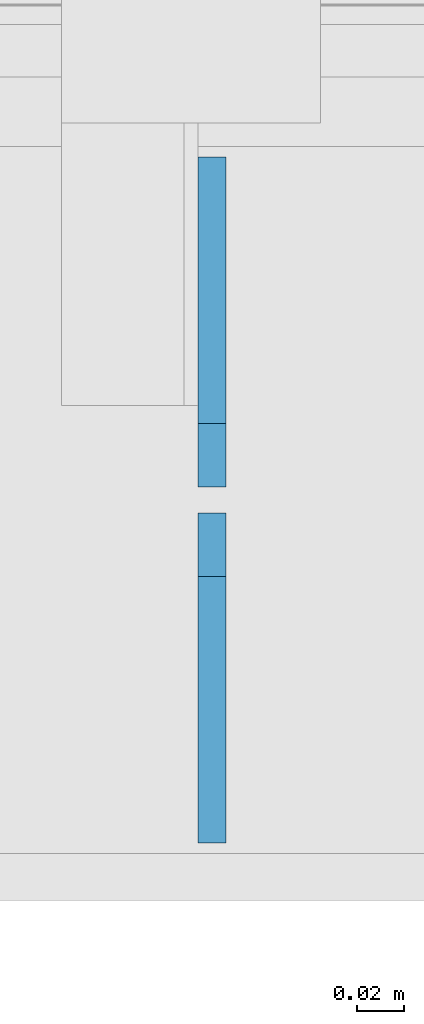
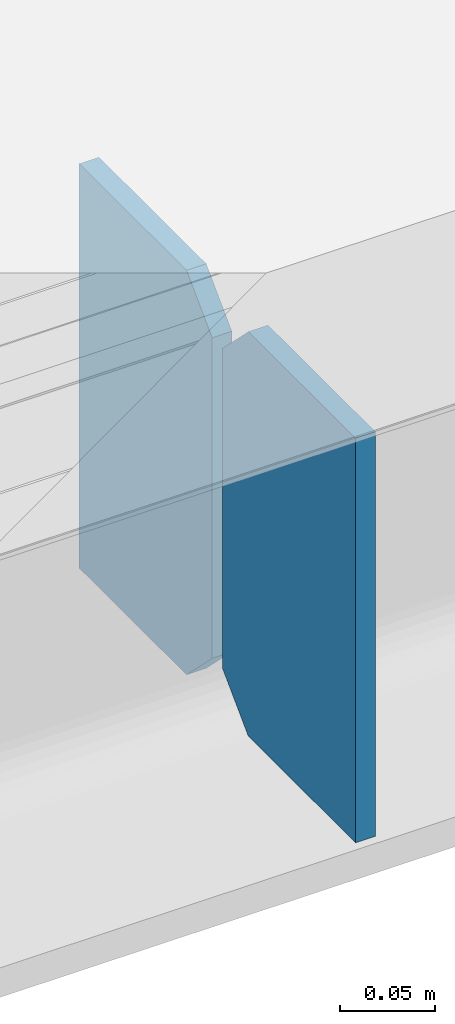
# One storey, part 3 of 12: 2 plates.
"""IFC2X3 building model written with IfcOpenShell, lengths in millimetres."""

from ifc_helpers import new_model, entity, si_unit, converted_unit, derived_unit, direction, frame, origin_with_axes, place, context, subcontext, project, spatial, polyline, outline, extrude, material, type_object, element, save


model = new_model("IFC2X3")

# Units and contexts
model_context = context("Model", 3, precision=0.01, world=frame((0.0, 4.29681676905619e-09, 0.0)), true_north=direction((4.01073788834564e-13, 1.0)))
plan_context = context("Plan", 3, precision=0.01, world=frame((0.0, 4.29681676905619e-09, 0.0)), true_north=direction((4.01073788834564e-13, 1.0)))
body_context = subcontext(model_context, "Body", "Model", "MODEL_VIEW")
ifc_project = project(units=[converted_unit("PLANEANGLEUNIT", "DEGREE", entity("IfcPositiveLengthMeasure", 0.0174532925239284), si_unit("PLANEANGLEUNIT", "RADIAN"), dimensions=[0, 0, 0, 0, 0, 0, 0]), si_unit("AREAUNIT", "SQUARE_METRE"), si_unit("LENGTHUNIT", "METRE", prefix="MILLI"), si_unit("MASSUNIT", "GRAM", prefix="KILO"), si_unit("POWERUNIT", "WATT"), si_unit("PRESSUREUNIT", "PASCAL"), si_unit("FORCEUNIT", "NEWTON", prefix="KILO"), si_unit("ELECTRICVOLTAGEUNIT", "VOLT"), si_unit("ELECTRICCURRENTUNIT", "AMPERE"), si_unit("THERMODYNAMICTEMPERATUREUNIT", "DEGREE_CELSIUS"), si_unit("TIMEUNIT", "SECOND"), si_unit("VOLUMEUNIT", "CUBIC_METRE"), derived_unit("LINEARVELOCITYUNIT", [(si_unit("LENGTHUNIT", "METRE"), 1), (si_unit("TIMEUNIT", "SECOND"), -1)]), derived_unit("VOLUMETRICFLOWRATEUNIT", [(si_unit("VOLUMEUNIT", "CUBIC_METRE"), 1), (si_unit("TIMEUNIT", "SECOND"), -1)]), derived_unit("THERMALTRANSMITTANCEUNIT", [(si_unit("POWERUNIT", "WATT"), 1), (si_unit("THERMODYNAMICTEMPERATUREUNIT", "KELVIN"), -1), (si_unit("AREAUNIT", "SQUARE_METRE"), -1)]), derived_unit("SOUNDPRESSUREUNIT", [(si_unit("PRESSUREUNIT", "PASCAL"), 1)])], contexts=[model_context, plan_context])

# Site, building, storey
site_placement = place(None, frame((0.0, -4.29681676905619e-09, 0.0), z_axis=(0.0, 0.0, 1.0), x_axis=(1.0, 0.0, 0.0)))
site = spatial("IfcSite", under=ifc_project, at=site_placement, Name="Gardermoen", CompositionType="ELEMENT")
building_placement = place(site_placement, frame((0.0, 4.29681676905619e-09, 0.0), z_axis=(0.0, 0.0, 1.0), x_axis=(1.0, 0.0, 0.0)))
building = spatial("IfcBuilding", under=site, at=building_placement, Name="TH", CompositionType="ELEMENT")
storey_placement = place(building_placement, origin_with_axes())
storey = spatial("IfcBuildingStorey", under=building, at=storey_placement, Name="D", CompositionType="ELEMENT", Elevation=0.0)

# Plates
ifc_material = material(Name="STEEL/S355")
plate_type = type_object("IfcPlateType", Name="PL12*140", PredefinedType="NOTDEFINED")
plate_1_placement = place(storey_placement, frame((910008.949781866, 484994.495625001, 209760.0), z_axis=(-1.0, 0.0, 6.61744490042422e-24), x_axis=(0.0, -1.0, 0.0)))
element("IfcPlate", 1, at=plate_1_placement, inside=storey, type_object=plate_type, material=ifc_material, Name="STÅLBJELKE", ObjectType="PL12*140", context=body_context, shape_type="SweptSolid", body=[
    extrude(outline(polyline([(0.0, 27.0), (27.0, 1.06581410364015e-13), (140.0, 2.61934474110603e-10), (140.0, 259.999999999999), (27.0, 259.999999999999), (0.0, 232.999999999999), (0.0, 27.0)])), frame((5.82076609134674e-11, 0.0, -6.0), z_axis=(0.0, 0.0, 1.0), x_axis=(1.0, 0.0, 0.0)), (0.0, 0.0, 1.0), 12.0),
])
plate_2_placement = place(storey_placement, frame((910008.949781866, 485005.495625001, 209787.0), z_axis=(1.0, 0.0, 0.0), x_axis=(0.0, 0.707106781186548, -0.707106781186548)))
element("IfcPlate", 2, at=plate_2_placement, inside=storey, type_object=plate_type, material=ifc_material, Name="STÅLBJELKE", ObjectType="PL12*140", context=body_context, shape_type="SweptSolid", body=[
    extrude(outline(polyline([(0.0, 0.0), (38.1837654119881, -5.82076609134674e-11), (118.086830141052, 79.9030685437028), (-65.7609252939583, 263.750823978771), (-145.664001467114, 183.847763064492), (-145.664001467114, 145.664001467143), (0.0, 0.0)])), frame((5.82076609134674e-11, 0.0, -6.0), z_axis=(0.0, 0.0, 1.0), x_axis=(1.0, 0.0, 0.0)), (0.0, 0.0, 1.0), 12.0),
])

save(model, "model.ifc")
